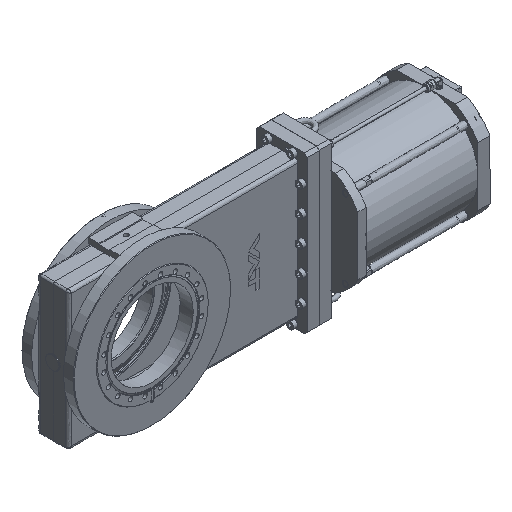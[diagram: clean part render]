
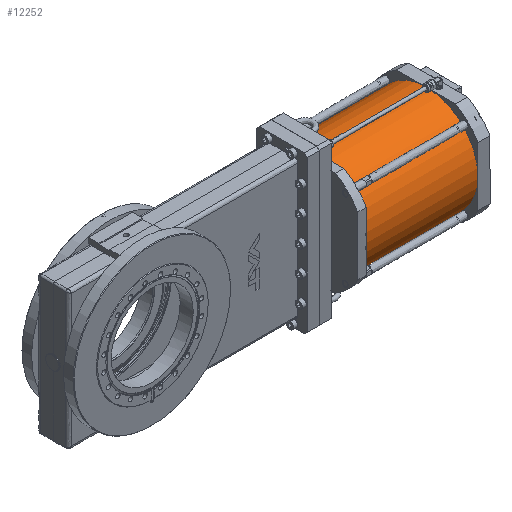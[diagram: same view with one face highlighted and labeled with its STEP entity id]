
A CAD part, isometric view. The second image highlights one B-rep face of the part: STEP entity #12252.
In plain terms, the highlighted free-form (B-spline) face has degree [2, 1] with [7, 2] control points.
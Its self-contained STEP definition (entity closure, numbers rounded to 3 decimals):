
#12159=CARTESIAN_POINT('V2',(0.,95.0,0.0));
#12160=VERTEX_POINT('V2',#12159);
#12161=CARTESIAN_POINT('E11',(0.,95.0,0.0));
#12162=CARTESIAN_POINT('E11',(0.,95.,
   -164.545));
#12163=CARTESIAN_POINT('E11',(0.,-47.5,
   -82.272));
#12164=CARTESIAN_POINT('E11',(0.,-190.,
   0.));
#12165=CARTESIAN_POINT('E11',(0.,-47.5,
   82.272));
#12166=CARTESIAN_POINT('E11',(0.,95.,
   164.545));
#12167=CARTESIAN_POINT('E11',(0.,95.0,0.0));
#12175=(BOUNDED_CURVE()B_SPLINE_CURVE(2,(#12161,#12162,#12163,
   #12164,#12165,#12166,#12167),.CIRCULAR_ARC.,.T.,.U.)
   B_SPLINE_CURVE_WITH_KNOTS((3,2,2,3),(0.0,0.333,
   0.667,1.0),.UNSPECIFIED.)CURVE()
   GEOMETRIC_REPRESENTATION_ITEM()RATIONAL_B_SPLINE_CURVE((1.0,
   0.5,1.0,0.5,1.0,0.5,1.0)
   )REPRESENTATION_ITEM('E11'));
#12176=EDGE_CURVE('E11',#12160,#12160,#12175,.T.);
#12202=CARTESIAN_POINT('F2',(0.,95.0,0.0));
#12203=CARTESIAN_POINT('F2',(0.,95.,
   164.545));
#12204=CARTESIAN_POINT('F2',(0.,-47.5,
   82.272));
#12205=CARTESIAN_POINT('F2',(0.,-190.,
   0.));
#12206=CARTESIAN_POINT('F2',(0.,-47.5,
   -82.272));
#12207=CARTESIAN_POINT('F2',(0.,95.,
   -164.545));
#12208=CARTESIAN_POINT('F2',(0.,95.0,0.0));
#12209=CARTESIAN_POINT('F2',(204.5,95.0,0.0));
#12210=CARTESIAN_POINT('F2',(204.5,95.,
   164.545));
#12211=CARTESIAN_POINT('F2',(204.5,-47.5,
   82.272));
#12212=CARTESIAN_POINT('F2',(204.5,
   -190.,0.));
#12213=CARTESIAN_POINT('F2',(204.5,-47.5,
   -82.272));
#12214=CARTESIAN_POINT('F2',(204.5,95.,
   -164.545));
#12215=CARTESIAN_POINT('F2',(204.5,95.0,0.0));
#12223=(BOUNDED_SURFACE()B_SPLINE_SURFACE(2,1,((#12202,#12209),(
   #12203,#12210),(#12204,#12211),(#12205,#12212),(#12206,
   #12213),(#12207,#12214),(#12208,#12215)),.CYLINDRICAL_SURF.,
   .T.,.F.,.U.)B_SPLINE_SURFACE_WITH_KNOTS((3,2,2,3),(2,2),(0.0,
   1.609,3.218,4.828),(0.0,1.0),
   .UNSPECIFIED.)GEOMETRIC_REPRESENTATION_ITEM()
   RATIONAL_B_SPLINE_SURFACE(((1.0,1.0),(0.5,
   0.5),(1.0,1.0),(0.5,
   0.5),(1.0,1.0),(0.5,
   0.5),(1.0,1.0)))REPRESENTATION_ITEM('F2')SURFACE()
   );
#12224=CARTESIAN_POINT('V3',(204.5,95.0,0.0));
#12225=VERTEX_POINT('V3',#12224);
#12226=CARTESIAN_POINT('E2',(204.5,95.0,0.0));
#12227=CARTESIAN_POINT('E2',(0.,95.0,0.0));
#12228=QUASI_UNIFORM_CURVE('E2',1,(#12226,#12227),.POLYLINE_FORM.,
   .F.,.U.);
#12229=EDGE_CURVE('E2',#12225,#12160,#12228,.T.);
#12230=ORIENTED_EDGE('E2',*,*,#12229,.F.);
#12231=CARTESIAN_POINT('E12',(204.5,95.0,0.0));
#12232=CARTESIAN_POINT('E12',(204.5,95.,
   -164.545));
#12233=CARTESIAN_POINT('E12',(204.5,
   -47.5,-82.272));
#12234=CARTESIAN_POINT('E12',(204.5,
   -190.,0.));
#12235=CARTESIAN_POINT('E12',(204.5,
   -47.5,82.272));
#12236=CARTESIAN_POINT('E12',(204.5,95.,
   164.545));
#12237=CARTESIAN_POINT('E12',(204.5,95.0,0.0));
#12245=(BOUNDED_CURVE()B_SPLINE_CURVE(2,(#12231,#12232,#12233,
   #12234,#12235,#12236,#12237),.CIRCULAR_ARC.,.T.,.U.)
   B_SPLINE_CURVE_WITH_KNOTS((3,2,2,3),(0.0,1.609,
   3.218,4.828),.UNSPECIFIED.)CURVE()
   GEOMETRIC_REPRESENTATION_ITEM()RATIONAL_B_SPLINE_CURVE((1.0,
   0.5,1.0,0.5,1.0,0.5,1.0)
   )REPRESENTATION_ITEM('E12'));
#12246=EDGE_CURVE('E12',#12225,#12225,#12245,.T.);
#12247=ORIENTED_EDGE('E12',*,*,#12246,.F.);
#12248=ORIENTED_EDGE('E2',*,*,#12229,.T.);
#12249=ORIENTED_EDGE('F1',*,*,#12176,.T.);
#12250=EDGE_LOOP('F2',(#12230,#12247,#12248,#12249));
#12251=FACE_OUTER_BOUND('F2',#12250,.F.);
#12252=ADVANCED_FACE('F2',(#12251),#12223,.T.);
